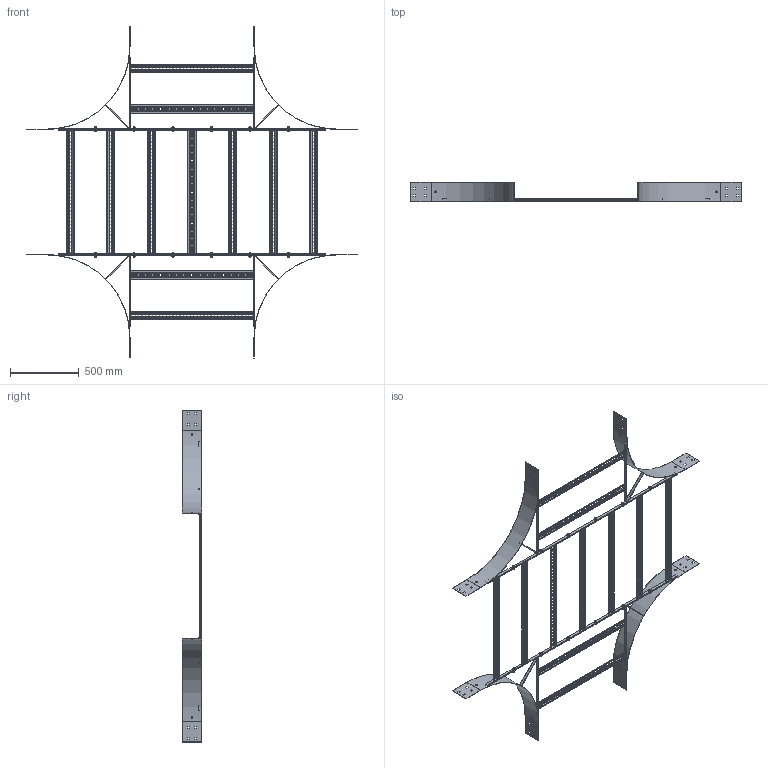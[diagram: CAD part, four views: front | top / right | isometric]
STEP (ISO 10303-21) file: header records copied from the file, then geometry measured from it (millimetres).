
FILE_DESCRIPTION (( 'STEP AP203' ), '1' );
FILE_NAME ('N20C C 9006.STEP', '2024-08-28T23:49:09', ( '' ), ( '' ), 'SwSTEP 2.0', 'SolidWorks 2023', '' );
FILE_SCHEMA (( 'CONFIG_CONTROL_DESIGN' ));
Length unit declared in the file: millimetre
Products named in the file (14): Washers_M10 washer; Ladder Rung_Ladder Rung -  900mm; Ladder Tee 20x5 Flat Bar_1945; N20CC9006 horizontal_N20C C; Ladder Tee 20x5 Flat Bar_240; CNH M10 Collar Nut_CNH M10 collar nut HDG; N20C RADIUS PLATE_N1-600 IR; N20C C 9006; Fascia bolt - M10x25_Fascia bolt; N20CC9006 vertical with sides_N20C C; Ladder Tee 20x5 Flat Bar_518; Fascia Kit M10x25_4th position
Assembly tree (36 placements, depth 3):
  N20C C 9006
    N20CC9006 vertical with sides_N20C C  x2
      Ladder Tee 20x5 Flat Bar_1945
      N20C RADIUS PLATE_N1-600 IR
      Ladder Rung_Ladder Rung -  900mm
      Ladder Tee 20x5 Flat Bar_518
      Ladder Tee 20x5 Flat Bar_240
    N20CC9006 horizontal_N20C C
      Ladder Rung_Ladder Rung -  900mm  x7
      Ladder Tee 20x5 Flat Bar_1945
      Ladder Tee 20x5 Flat Bar_1945
    Fascia Kit M10x25_4th position  x12
      Fascia bolt - M10x25_Fascia bolt
      Washers_M10 washer
      CNH M10 Collar Nut_CNH M10 collar nut HDG
Bounding box: 2400 x 140 x 2410 mm (x, y, z)
Volume: 3561817.8 mm3; surface area: 3378176 mm2
Topology: 63 solids, 63 shells, 4598 faces, 12468 edges, 8044 vertices
Faces by surface type: plane 3910, cylinder 232, cone 168, bspline 168, torus 96, sphere 24
Entity records: 20079 total; most frequent: CARTESIAN_POINT 4606, ORIENTED_EDGE 2826, DIRECTION 2569, EDGE_CURVE 1413, VECTOR 1161, LINE 1161, VERTEX_POINT 917, AXIS2_PLACEMENT_3D 704
